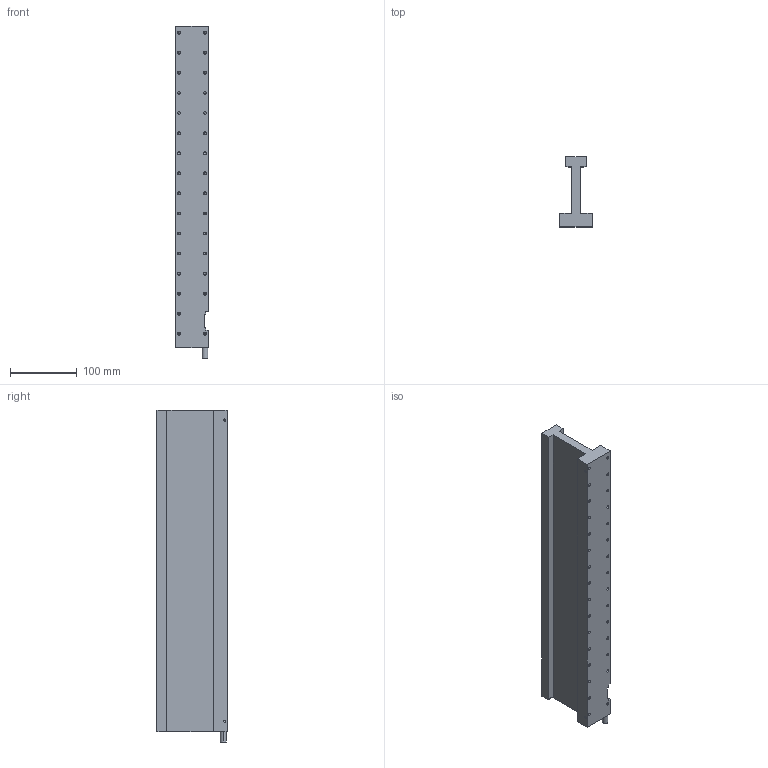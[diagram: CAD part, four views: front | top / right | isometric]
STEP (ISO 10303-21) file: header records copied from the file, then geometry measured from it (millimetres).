
FILE_DESCRIPTION (( 'STEP AP214' ), '1' );
FILE_NAME ('JKA58.STEP', '2025-09-05T08:50:58', ( '' ), ( '' ), 'SwSTEP 2.0', 'SolidWorks 2016', '' );
FILE_SCHEMA (( 'AUTOMOTIVE_DESIGN' ));
Length unit declared in the file: millimetre
Products named in the file (1): JKA58
Bounding box: 49 x 104.8 x 496 mm (x, y, z)
Volume: 1134707.5 mm3; surface area: 176221.7 mm2
Topology: 1 solids, 1 shells, 187 faces, 479 edges, 257 vertices
Faces by surface type: cylinder 84, cone 74, plane 29
Entity records: 5973 total; most frequent: DIRECTION 939, CARTESIAN_POINT 896, ORIENTED_EDGE 810, EDGE_CURVE 405, AXIS2_PLACEMENT_3D 352, VERTEX_POINT 257, VECTOR 235, LINE 235
